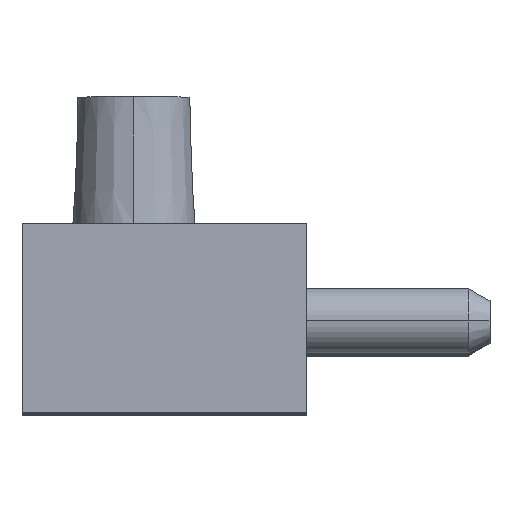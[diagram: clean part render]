
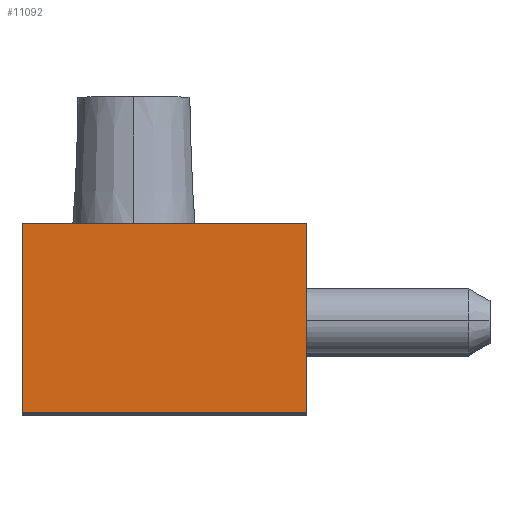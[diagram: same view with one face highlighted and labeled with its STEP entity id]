
A CAD part, top view. The second image highlights one B-rep face of the part: STEP entity #11092.
In plain terms, the highlighted planar face has unit normal (0, 0, 1).
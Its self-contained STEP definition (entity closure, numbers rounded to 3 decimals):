
#3521 = CARTESIAN_POINT ( 'NONE',  ( -7., 0., 0. ) ) ;
#3522 = DIRECTION ( 'NONE',  ( 1., 0., 0. ) ) ;
#3523 = VECTOR ( 'NONE', #3522, 1000. ) ;
#3524 = CARTESIAN_POINT ( 'NONE',  ( 0., 0., 0. ) ) ;
#3525 = LINE ( 'NONE', #3524, #3523 ) ;
#3596 = CARTESIAN_POINT ( 'NONE',  ( 7., 0., 0. ) ) ;
#3905 = CARTESIAN_POINT ( 'NONE',  ( 7., 9.3, 0. ) ) ;
#3967 = FACE_OUTER_BOUND ( 'NONE', #11093, .T. ) ;
#3968 = DIRECTION ( 'NONE',  ( 0., 1., 0. ) ) ;
#3969 = VECTOR ( 'NONE', #3968, 1000. ) ;
#3970 = CARTESIAN_POINT ( 'NONE',  ( 7., 4.65, 0. ) ) ;
#3971 = LINE ( 'NONE', #3970, #3969 ) ;
#4013 = DIRECTION ( 'NONE',  ( 0., -1., 0. ) ) ;
#4014 = VECTOR ( 'NONE', #4013, 1000. ) ;
#4015 = CARTESIAN_POINT ( 'NONE',  ( -7., 4.65, 0. ) ) ;
#4016 = LINE ( 'NONE', #4015, #4014 ) ;
#4017 = CARTESIAN_POINT ( 'NONE',  ( -7., 9.3, 0. ) ) ;
#4018 = DIRECTION ( 'NONE',  ( -1., 0., 0. ) ) ;
#4019 = VECTOR ( 'NONE', #4018, 1000. ) ;
#4020 = CARTESIAN_POINT ( 'NONE',  ( -7., 9.3, 0. ) ) ;
#4021 = LINE ( 'NONE', #4020, #4019 ) ;
#4026 = DIRECTION ( 'NONE',  ( 1., 0., 0. ) ) ;
#4027 = DIRECTION ( 'NONE',  ( 0., 0., 1. ) ) ;
#4028 = CARTESIAN_POINT ( 'NONE',  ( -7., 0., 0. ) ) ;
#4029 = AXIS2_PLACEMENT_3D ( 'NONE', #4028, #4027, #4026 ) ;
#9214 = PLANE ( 'NONE',  #4029 ) ;
#10778 = EDGE_CURVE ( 'NONE', #10779, #10810, #3525, .T. ) ;
#10779 = VERTEX_POINT ( 'NONE', #3521 ) ;
#10810 = VERTEX_POINT ( 'NONE', #3596 ) ;
#11038 = VERTEX_POINT ( 'NONE', #3905 ) ;
#11090 = EDGE_CURVE ( 'NONE', #10810, #11038, #3971, .T. ) ;
#11092 = ADVANCED_FACE ( 'NONE', ( #3967 ), #9214, .T. ) ;
#11093 = EDGE_LOOP ( 'NONE', ( #11094, #11095, #11099, #11102 ) ) ;
#11094 = ORIENTED_EDGE ( 'NONE', *, *, #11090, .T. ) ;
#11095 = ORIENTED_EDGE ( 'NONE', *, *, #11097, .T. ) ;
#11097 = EDGE_CURVE ( 'NONE', #11038, #11098, #4021, .T. ) ;
#11098 = VERTEX_POINT ( 'NONE', #4017 ) ;
#11099 = ORIENTED_EDGE ( 'NONE', *, *, #11100, .T. ) ;
#11100 = EDGE_CURVE ( 'NONE', #11098, #10779, #4016, .T. ) ;
#11102 = ORIENTED_EDGE ( 'NONE', *, *, #10778, .T. ) ;
